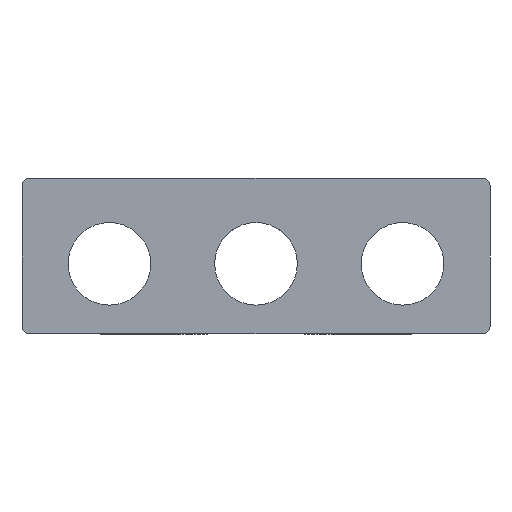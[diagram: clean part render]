
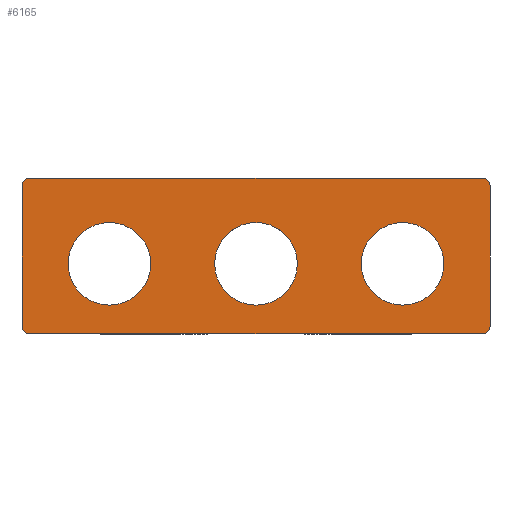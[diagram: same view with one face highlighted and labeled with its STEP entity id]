
A CAD part, left-side view. The second image highlights one B-rep face of the part: STEP entity #6165.
In plain terms, the highlighted planar face has unit normal (-1, 0, 0).
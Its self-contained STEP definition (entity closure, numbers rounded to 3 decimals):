
#4509=CARTESIAN_POINT('',(-40.,29.707,9.707));
#4510=VERTEX_POINT('',#4509);
#4519=CARTESIAN_POINT('',(-40.,29.,10.0));
#4520=VERTEX_POINT('',#4519);
#4521=CARTESIAN_POINT('',(-40.,29.,9.0));
#4522=DIRECTION('',(1.,0.0,0.0));
#4523=DIRECTION('',(0.0,0.707,0.707));
#4524=AXIS2_PLACEMENT_3D('',#4521,#4522,#4523);
#4525=CIRCLE('',#4524,1.);
#4526=EDGE_CURVE('',#4510,#4520,#4525,.T.);
#4553=CARTESIAN_POINT('',(-40.,29.707,-9.707));
#4554=VERTEX_POINT('',#4553);
#4570=CARTESIAN_POINT('',(-40.,29.,-10.0));
#4571=VERTEX_POINT('',#4570);
#4578=CARTESIAN_POINT('',(-40.,29.,-9.));
#4579=DIRECTION('',(1.,0.0,0.0));
#4580=DIRECTION('',(0.0,0.707,-0.707));
#4581=AXIS2_PLACEMENT_3D('',#4578,#4579,#4580);
#4582=CIRCLE('',#4581,1.);
#4583=EDGE_CURVE('',#4571,#4554,#4582,.T.);
#4593=CARTESIAN_POINT('',(-40.0,-29.707,-9.707));
#4594=VERTEX_POINT('',#4593);
#4603=CARTESIAN_POINT('',(-40.,-29.,-10.0));
#4604=VERTEX_POINT('',#4603);
#4605=CARTESIAN_POINT('',(-40.0,-29.,-9.));
#4606=DIRECTION('',(1.,0.0,0.0));
#4607=DIRECTION('',(0.0,-0.707,-0.707));
#4608=AXIS2_PLACEMENT_3D('',#4605,#4606,#4607);
#4609=CIRCLE('',#4608,1.);
#4610=EDGE_CURVE('',#4594,#4604,#4609,.T.);
#4637=CARTESIAN_POINT('',(-40.,-29.707,9.707));
#4638=VERTEX_POINT('',#4637);
#4654=CARTESIAN_POINT('',(-40.,-29.,10.0));
#4655=VERTEX_POINT('',#4654);
#4662=CARTESIAN_POINT('',(-40.,-29.,9.0));
#4663=DIRECTION('',(1.,0.0,0.0));
#4664=DIRECTION('',(0.0,-0.707,0.707));
#4665=AXIS2_PLACEMENT_3D('',#4662,#4663,#4664);
#4666=CIRCLE('',#4665,1.);
#4667=EDGE_CURVE('',#4655,#4638,#4666,.T.);
#4679=CARTESIAN_POINT('',(-40.,-5.294,-1.0));
#4680=VERTEX_POINT('',#4679);
#4696=CARTESIAN_POINT('',(-40.,5.294,-1.));
#4697=VERTEX_POINT('',#4696);
#4704=CARTESIAN_POINT('',(-40.,0.,-1.0));
#4705=DIRECTION('',(1.0,0.0,0.0));
#4706=DIRECTION('',(0.0,-1.0,0.0));
#4707=AXIS2_PLACEMENT_3D('',#4704,#4705,#4706);
#4708=CIRCLE('',#4707,5.294);
#4709=EDGE_CURVE('',#4680,#4697,#4708,.T.);
#4721=CARTESIAN_POINT('',(-40.,-24.094,-1.0));
#4722=VERTEX_POINT('',#4721);
#4738=CARTESIAN_POINT('',(-40.,-13.506,-1.));
#4739=VERTEX_POINT('',#4738);
#4746=CARTESIAN_POINT('',(-40.,-18.8,-1.0));
#4747=DIRECTION('',(1.0,0.0,0.0));
#4748=DIRECTION('',(0.0,-1.0,0.0));
#4749=AXIS2_PLACEMENT_3D('',#4746,#4747,#4748);
#4750=CIRCLE('',#4749,5.294);
#4751=EDGE_CURVE('',#4722,#4739,#4750,.T.);
#4763=CARTESIAN_POINT('',(-40.,13.506,-1.0));
#4764=VERTEX_POINT('',#4763);
#4780=CARTESIAN_POINT('',(-40.,24.094,-1.));
#4781=VERTEX_POINT('',#4780);
#4788=CARTESIAN_POINT('',(-40.,18.8,-1.0));
#4789=DIRECTION('',(1.0,0.0,0.0));
#4790=DIRECTION('',(0.0,-1.0,0.0));
#4791=AXIS2_PLACEMENT_3D('',#4788,#4789,#4790);
#4792=CIRCLE('',#4791,5.294);
#4793=EDGE_CURVE('',#4764,#4781,#4792,.T.);
#4804=CARTESIAN_POINT('',(-40.,18.8,-1.0));
#4805=DIRECTION('',(1.0,0.0,0.0));
#4806=DIRECTION('',(0.0,-1.0,0.0));
#4807=AXIS2_PLACEMENT_3D('',#4804,#4805,#4806);
#4808=CIRCLE('',#4807,5.294);
#4809=EDGE_CURVE('',#4781,#4764,#4808,.T.);
#5092=CARTESIAN_POINT('',(-40.,-18.8,-1.0));
#5093=DIRECTION('',(1.0,0.0,0.0));
#5094=DIRECTION('',(0.0,-1.0,0.0));
#5095=AXIS2_PLACEMENT_3D('',#5092,#5093,#5094);
#5096=CIRCLE('',#5095,5.294);
#5097=EDGE_CURVE('',#4739,#4722,#5096,.T.);
#5188=CARTESIAN_POINT('',(-40.,0.,-1.0));
#5189=DIRECTION('',(1.0,0.0,0.0));
#5190=DIRECTION('',(0.0,-1.0,0.0));
#5191=AXIS2_PLACEMENT_3D('',#5188,#5189,#5190);
#5192=CIRCLE('',#5191,5.294);
#5193=EDGE_CURVE('',#4697,#4680,#5192,.T.);
#5924=CARTESIAN_POINT('',(-40.,-30.0,9.0));
#5925=VERTEX_POINT('',#5924);
#5926=CARTESIAN_POINT('',(-40.,-29.,9.0));
#5927=DIRECTION('',(1.,0.0,0.0));
#5928=DIRECTION('',(0.0,-0.707,0.707));
#5929=AXIS2_PLACEMENT_3D('',#5926,#5927,#5928);
#5930=CIRCLE('',#5929,1.);
#5931=EDGE_CURVE('',#4638,#5925,#5930,.T.);
#6033=CARTESIAN_POINT('',(-40.,-30.0,-9.));
#6034=VERTEX_POINT('',#6033);
#6035=CARTESIAN_POINT('',(-40.,-30.0,-9.));
#6036=DIRECTION('',(0.0,0.0,1.0));
#6037=VECTOR('',#6036,18.0);
#6038=LINE('',#6035,#6037);
#6039=EDGE_CURVE('',#6034,#5925,#6038,.T.);
#6059=CARTESIAN_POINT('',(-40.0,-29.,-9.));
#6060=DIRECTION('',(1.,0.0,0.0));
#6061=DIRECTION('',(0.0,-0.707,-0.707));
#6062=AXIS2_PLACEMENT_3D('',#6059,#6060,#6061);
#6063=CIRCLE('',#6062,1.);
#6064=EDGE_CURVE('',#6034,#4594,#6063,.T.);
#6075=CARTESIAN_POINT('',(-40.,30.,-9.));
#6076=VERTEX_POINT('',#6075);
#6077=CARTESIAN_POINT('',(-40.,29.,-9.));
#6078=DIRECTION('',(1.,0.0,0.0));
#6079=DIRECTION('',(0.0,0.707,-0.707));
#6080=AXIS2_PLACEMENT_3D('',#6077,#6078,#6079);
#6081=CIRCLE('',#6080,1.);
#6082=EDGE_CURVE('',#4554,#6076,#6081,.T.);
#6100=CARTESIAN_POINT('',(-40.,30.,9.0));
#6101=VERTEX_POINT('',#6100);
#6102=CARTESIAN_POINT('',(-40.,30.,-9.));
#6103=DIRECTION('',(0.0,0.0,1.0));
#6104=VECTOR('',#6103,18.0);
#6105=LINE('',#6102,#6104);
#6106=EDGE_CURVE('',#6076,#6101,#6105,.T.);
#6118=CARTESIAN_POINT('',(-40.,-30.0,-10.0));
#6119=DIRECTION('',(-1.0,0.0,0.0));
#6120=DIRECTION('',(0.0,0.0,1.0));
#6121=AXIS2_PLACEMENT_3D('',#6118,#6119,#6120);
#6122=PLANE('',#6121);
#6123=ORIENTED_EDGE('',*,*,#4667,.F.);
#6124=CARTESIAN_POINT('',(-40.,-29.,10.0));
#6125=DIRECTION('',(0.0,1.0,0.0));
#6126=VECTOR('',#6125,58.);
#6127=LINE('',#6124,#6126);
#6128=EDGE_CURVE('',#4655,#4520,#6127,.T.);
#6129=ORIENTED_EDGE('',*,*,#6128,.T.);
#6130=ORIENTED_EDGE('',*,*,#4526,.F.);
#6131=CARTESIAN_POINT('',(-40.,29.,9.0));
#6132=DIRECTION('',(1.,0.0,0.0));
#6133=DIRECTION('',(0.0,0.707,0.707));
#6134=AXIS2_PLACEMENT_3D('',#6131,#6132,#6133);
#6135=CIRCLE('',#6134,1.);
#6136=EDGE_CURVE('',#6101,#4510,#6135,.T.);
#6137=ORIENTED_EDGE('',*,*,#6136,.F.);
#6138=ORIENTED_EDGE('',*,*,#6106,.F.);
#6139=ORIENTED_EDGE('',*,*,#6082,.F.);
#6140=ORIENTED_EDGE('',*,*,#4583,.F.);
#6141=CARTESIAN_POINT('',(-40.,29.,-10.0));
#6142=DIRECTION('',(0.0,-1.0,0.0));
#6143=VECTOR('',#6142,58.);
#6144=LINE('',#6141,#6143);
#6145=EDGE_CURVE('',#4571,#4604,#6144,.T.);
#6146=ORIENTED_EDGE('',*,*,#6145,.T.);
#6147=ORIENTED_EDGE('',*,*,#4610,.F.);
#6148=ORIENTED_EDGE('',*,*,#6064,.F.);
#6149=ORIENTED_EDGE('',*,*,#6039,.T.);
#6150=ORIENTED_EDGE('',*,*,#5931,.F.);
#6151=EDGE_LOOP('',(#6123,#6129,#6130,#6137,#6138,#6139,#6140,#6146,#6147,#6148,#6149,#6150));
#6152=FACE_OUTER_BOUND('',#6151,.T.);
#6153=ORIENTED_EDGE('',*,*,#4793,.T.);
#6154=ORIENTED_EDGE('',*,*,#4809,.T.);
#6155=EDGE_LOOP('',(#6153,#6154));
#6156=FACE_BOUND('',#6155,.T.);
#6157=ORIENTED_EDGE('',*,*,#4751,.T.);
#6158=ORIENTED_EDGE('',*,*,#5097,.T.);
#6159=EDGE_LOOP('',(#6157,#6158));
#6160=FACE_BOUND('',#6159,.T.);
#6161=ORIENTED_EDGE('',*,*,#4709,.T.);
#6162=ORIENTED_EDGE('',*,*,#5193,.T.);
#6163=EDGE_LOOP('',(#6161,#6162));
#6164=FACE_BOUND('',#6163,.T.);
#6165=ADVANCED_FACE('',(#6152,#6156,#6160,#6164),#6122,.T.);
